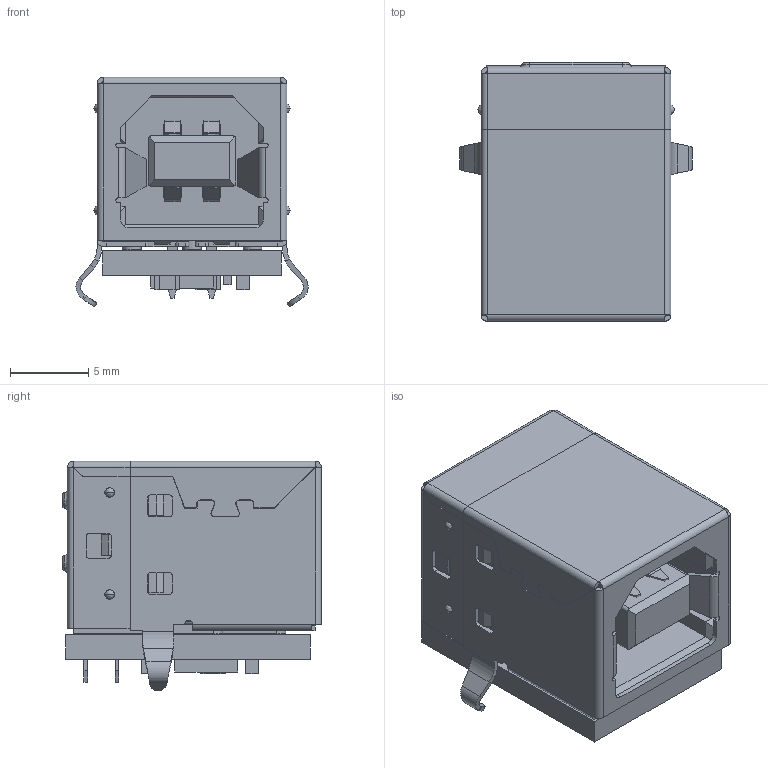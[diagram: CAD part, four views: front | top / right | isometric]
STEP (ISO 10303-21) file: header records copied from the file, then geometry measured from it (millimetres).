
FILE_DESCRIPTION(('Open CASCADE Model'),'2;1');
FILE_NAME('Open CASCADE Shape Model','2018-03-23T09:36:42',('Author'),( 'Open CASCADE'),'Open CASCADE STEP processor 6.8','Open CASCADE 6.8' ,'Unknown');
FILE_SCHEMA(('AUTOMOTIVE_DESIGN { 1 0 10303 214 1 1 1 1 }'));
Length unit declared in the file: millimetre
Products named in the file (31): PCB; Board; IC1; 6600698624; Extruded; C5; 6165966336; 6165966528; C4; 6165965376; 6165965184; C3; 6165964992; C2; 6240375552; 6240375360; C1; USB; USB-B-S-X-X-TH; contact01-USB_BF_TH_??; contact02-USB_BF_TH_??; rear_shell-USB_BF_TH_??; shell-USB_BF_TH_??; housing-USB_BF_TH_??
Assembly tree (40 placements, depth 4):
  PCB
    Board
    IC1
      6600698624
        Extruded
    C5
      6165966336  x2
        Extruded
      6165966528
        Extruded
    C4
      6165965376  x2
        Extruded
      6165965184
        Extruded
    C3
      6165964992  x2
        Extruded
      6165966528
        Extruded
    C2
      6240375552  x2
        Extruded
      6240375360
        Extruded
    C1
      6165965376  x2
        Extruded
      6165965184
        Extruded
    USB
      USB-B-S-X-X-TH
        contact01-USB_BF_TH_??  x2
        contact02-USB_BF_TH_??  x2
        rear_shell-USB_BF_TH_??
        shell-USB_BF_TH_??
        housing-USB_BF_TH_??
Bounding box: 14.8 x 16.5 x 14.64 mm (x, y, z)
Volume: 1561.9 mm3; surface area: 4058 mm2
Topology: 24 solids, 24 shells, 1122 faces, 3065 edges, 1987 vertices
Faces by surface type: plane 792, cylinder 279, bspline 51
Full cylindrical faces by diameter (mm): 0.92 x4, 1 x8
Entity records: 30230 total; most frequent: CARTESIAN_POINT 6505, ORIENTED_EDGE 4954, DIRECTION 4645, EDGE_CURVE 2477, LINE 1949, VECTOR 1949, VERTEX_POINT 1607, AXIS2_PLACEMENT_3D 1348
